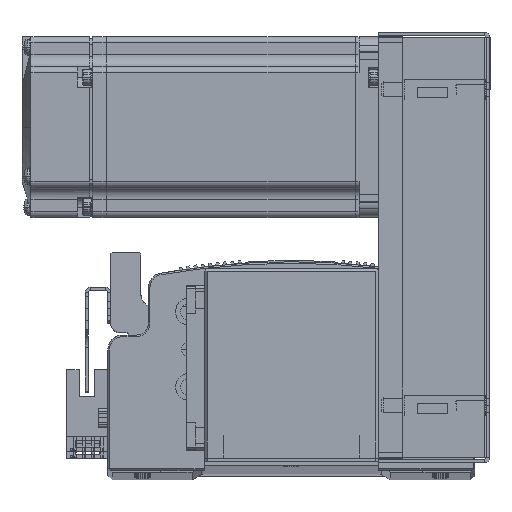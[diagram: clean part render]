
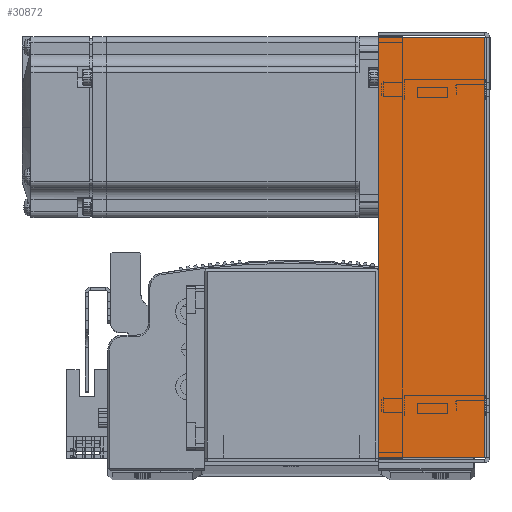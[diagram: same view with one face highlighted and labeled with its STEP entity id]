
A CAD part, top view. The second image highlights one B-rep face of the part: STEP entity #30872.
In plain terms, the highlighted planar face has unit normal (0, 0, 1) as drawn and (0, 0, -1) by its records, which use the part's own axes.
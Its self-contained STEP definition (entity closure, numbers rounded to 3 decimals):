
#3902 = CARTESIAN_POINT ( 'NONE',  ( 69.793, 36., -33.5 ) ) ;
#3974 = CARTESIAN_POINT ( 'NONE',  ( -69.793, 0.737, -33.5 ) ) ;
#3999 = CARTESIAN_POINT ( 'NONE',  ( 69.793, 0.737, -33.5 ) ) ;
#4000 = CARTESIAN_POINT ( 'NONE',  ( -69.793, 36., -33.5 ) ) ;
#17254 = AXIS2_PLACEMENT_3D ( 'NONE', #62044, #62045, #62046 ) ;
#27719 = LINE ( 'NONE', #35610, #27721 ) ;
#27721 = VECTOR ( 'NONE', #35605, 1000. ) ;
#27732 = LINE ( 'NONE', #35586, #27733 ) ;
#27733 = VECTOR ( 'NONE', #35466, 1000. ) ;
#27964 = LINE ( 'NONE', #35293, #28129 ) ;
#28129 = VECTOR ( 'NONE', #35231, 1000. ) ;
#28243 = LINE ( 'NONE', #37291, #28285 ) ;
#28285 = VECTOR ( 'NONE', #37248, 1000. ) ;
#30872 = ADVANCED_FACE ( 'NONE', ( #37431 ), #62043, .F. ) ;
#35231 = DIRECTION ( 'NONE',  ( 1., 0., 0. ) ) ;
#35293 = CARTESIAN_POINT ( 'NONE',  ( 0., 36., -33.5 ) ) ;
#35466 = DIRECTION ( 'NONE',  ( 0., 1., 0. ) ) ;
#35586 = CARTESIAN_POINT ( 'NONE',  ( 69.793, 0., -33.5 ) ) ;
#35605 = DIRECTION ( 'NONE',  ( 0., 1., 0. ) ) ;
#35610 = CARTESIAN_POINT ( 'NONE',  ( -69.793, 0., -33.5 ) ) ;
#37248 = DIRECTION ( 'NONE',  ( 1., 0., 0. ) ) ;
#37291 = CARTESIAN_POINT ( 'NONE',  ( 71.5, 0.737, -33.5 ) ) ;
#37431 = FACE_OUTER_BOUND ( 'NONE', #65369, .T. ) ;
#54676 = EDGE_CURVE ( 'NONE', #91620, #91581, #28243, .T. ) ;
#54714 = EDGE_CURVE ( 'NONE', #91607, #91573, #27964, .T. ) ;
#54745 = EDGE_CURVE ( 'NONE', #91620, #91607, #27719, .T. ) ;
#54749 = EDGE_CURVE ( 'NONE', #91581, #91573, #27732, .T. ) ;
#62043 = PLANE ( 'NONE',  #17254 ) ;
#62044 = CARTESIAN_POINT ( 'NONE',  ( 0., 0., -33.5 ) ) ;
#62045 = DIRECTION ( 'NONE',  ( 0., 0., 1. ) ) ;
#62046 = DIRECTION ( 'NONE',  ( 0., -1., 0. ) ) ;
#65369 = EDGE_LOOP ( 'NONE', ( #84425, #84349, #84344, #84375 ) ) ;
#84344 = ORIENTED_EDGE ( 'NONE', *, *, #54714, .T. ) ;
#84349 = ORIENTED_EDGE ( 'NONE', *, *, #54745, .T. ) ;
#84375 = ORIENTED_EDGE ( 'NONE', *, *, #54749, .F. ) ;
#84425 = ORIENTED_EDGE ( 'NONE', *, *, #54676, .F. ) ;
#91573 = VERTEX_POINT ( 'NONE', #3902 ) ;
#91581 = VERTEX_POINT ( 'NONE', #3999 ) ;
#91607 = VERTEX_POINT ( 'NONE', #4000 ) ;
#91620 = VERTEX_POINT ( 'NONE', #3974 ) ;
